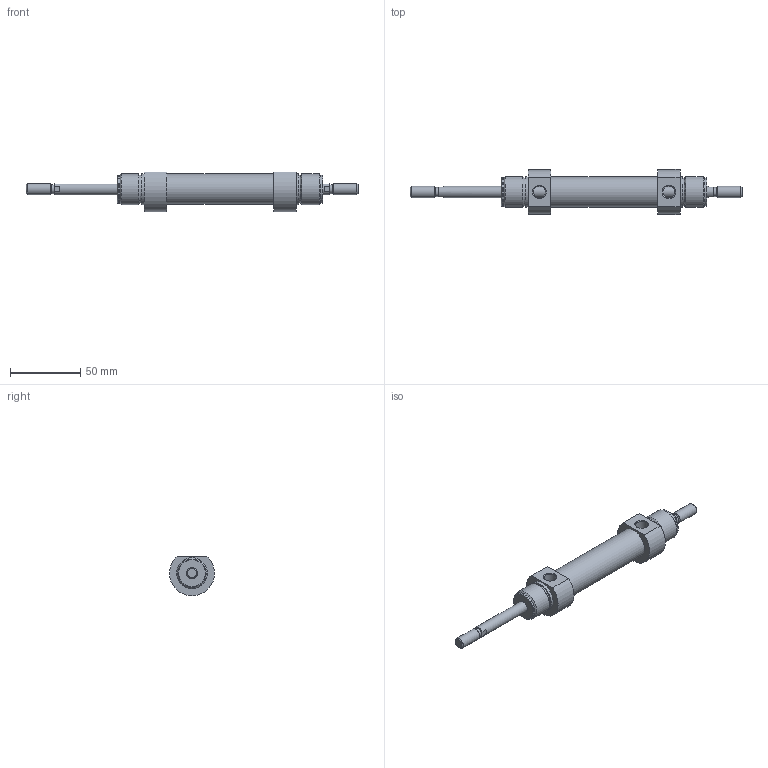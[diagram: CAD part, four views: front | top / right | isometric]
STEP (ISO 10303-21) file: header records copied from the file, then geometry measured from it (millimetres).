
FILE_DESCRIPTION( ( 'STEP AP203' ), '1' );
FILE_NAME( '//expscmdclustefs.cadenas.external/client_exchange/iodir/jobs/output/wkb68460611_no0/STEP/M101-020-0040-M__0__2_03.stp', ' ', ( ' ' ), ( ' ' ), 'PSStep 15.0.47', 'PARTsolutions', ' ' );
FILE_SCHEMA( ( 'CONFIG_CONTROL_DESIGN' ) );
Length unit declared in the file: millimetre
Products named in the file (3): M101-020-0040-M [0]; HI_M101-020-0040-M-[0]-z; HI_M101-020-0040-M-[0]-k
Assembly tree (2 placements, depth 2):
  M101-020-0040-M [0]
    HI_M101-020-0040-M-[0]-z
    HI_M101-020-0040-M-[0]-k
Bounding box: 236 x 32 x 28 mm (x, y, z)
Volume: 58572.1 mm3; surface area: 26232.7 mm2
Topology: 2 solids, 2 shells, 65 faces, 129 edges, 80 vertices
Faces by surface type: plane 26, cylinder 23, cone 14, torus 2
Full cylindrical faces by diameter (mm): 6.466 x2, 8 x6, 8.566 x2, 20 x2, 20.16 x4, 21.6 x1, 22 x4
Entity records: 1702 total; most frequent: CARTESIAN_POINT 356, DIRECTION 280, ORIENTED_EDGE 184, AXIS2_PLACEMENT_3D 128, EDGE_LOOP 116, EDGE_CURVE 92, FACE_OUTER_BOUND 88, VERTEX_POINT 76
